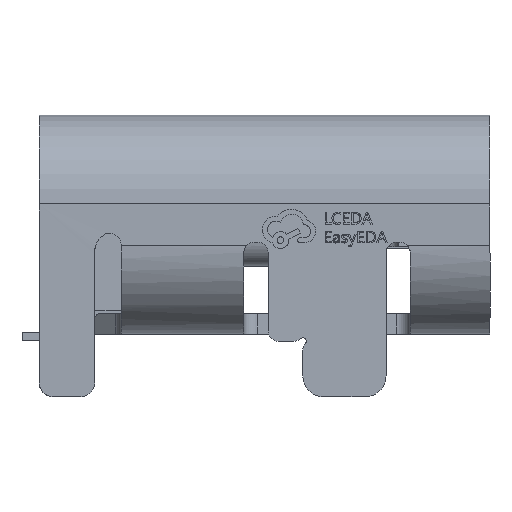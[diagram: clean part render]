
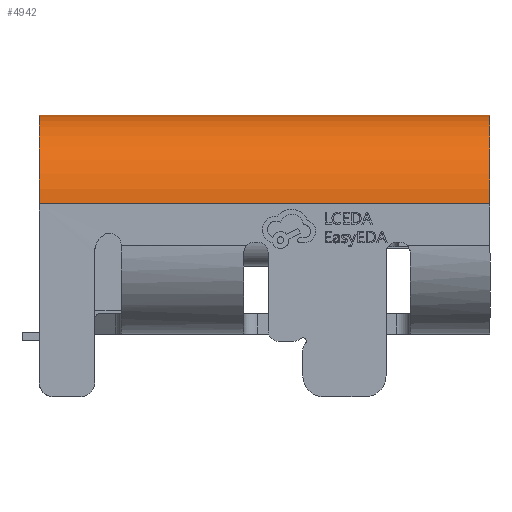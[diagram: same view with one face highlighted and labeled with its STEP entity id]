
A CAD part, left-side view. The second image highlights one B-rep face of the part: STEP entity #4942.
In plain terms, the highlighted cylindrical face has radius 1.28 mm (diameter 2.56 mm), a partial arc.
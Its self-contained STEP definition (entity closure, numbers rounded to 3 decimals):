
#1349 = ORIENTED_EDGE ( 'NONE', *, *, #21310, .T. ) ;
#2371 = DIRECTION ( 'NONE',  ( 0., 1., 0. ) ) ;
#4942 = ADVANCED_FACE ( 'NONE', ( #28675 ), #21417, .T. ) ;
#6455 = DIRECTION ( 'NONE',  ( 0., 0., 1. ) ) ;
#7211 = CARTESIAN_POINT ( 'NONE',  ( -4.47, -3.695, 0.713 ) ) ;
#9141 = DIRECTION ( 'NONE',  ( -1., 0., 0. ) ) ;
#9711 = CARTESIAN_POINT ( 'NONE',  ( -3.19, -3.695, 0.713 ) ) ;
#10146 = ORIENTED_EDGE ( 'NONE', *, *, #31077, .F. ) ;
#10737 = LINE ( 'NONE', #41276, #27868 ) ;
#11408 = AXIS2_PLACEMENT_3D ( 'NONE', #9711, #36488, #6455 ) ;
#11543 = DIRECTION ( 'NONE',  ( 1., 0., 0. ) ) ;
#12088 = EDGE_LOOP ( 'NONE', ( #1349, #10146, #28335, #20824 ) ) ;
#13552 = LINE ( 'NONE', #40397, #25682 ) ;
#15188 = CIRCLE ( 'NONE', #39771, 1.28 ) ;
#16803 = VERTEX_POINT ( 'NONE', #7211 ) ;
#16972 = CIRCLE ( 'NONE', #11408, 1.28 ) ;
#17223 = EDGE_CURVE ( 'NONE', #18652, #16803, #13552, .T. ) ;
#18178 = AXIS2_PLACEMENT_3D ( 'NONE', #28260, #34817, #11543 ) ;
#18652 = VERTEX_POINT ( 'NONE', #39096 ) ;
#18737 = CARTESIAN_POINT ( 'NONE',  ( -3.19, 2.805, 1.993 ) ) ;
#19737 = CARTESIAN_POINT ( 'NONE',  ( -3.19, -3.695, 1.993 ) ) ;
#20824 = ORIENTED_EDGE ( 'NONE', *, *, #35496, .F. ) ;
#21310 = EDGE_CURVE ( 'NONE', #40238, #42924, #10737, .T. ) ;
#21417 = CYLINDRICAL_SURFACE ( 'NONE', #18178, 1.28 ) ;
#25682 = VECTOR ( 'NONE', #29832, 1000. ) ;
#27868 = VECTOR ( 'NONE', #37095, 1000. ) ;
#28260 = CARTESIAN_POINT ( 'NONE',  ( -3.19, -2.195, 0.713 ) ) ;
#28335 = ORIENTED_EDGE ( 'NONE', *, *, #17223, .T. ) ;
#28675 = FACE_OUTER_BOUND ( 'NONE', #12088, .T. ) ;
#29512 = CARTESIAN_POINT ( 'NONE',  ( -3.19, 2.805, 0.713 ) ) ;
#29832 = DIRECTION ( 'NONE',  ( 0., -1., 0. ) ) ;
#31077 = EDGE_CURVE ( 'NONE', #18652, #42924, #15188, .T. ) ;
#34817 = DIRECTION ( 'NONE',  ( 0., -1., 0. ) ) ;
#35496 = EDGE_CURVE ( 'NONE', #40238, #16803, #16972, .T. ) ;
#36488 = DIRECTION ( 'NONE',  ( 0., -1., 0. ) ) ;
#37095 = DIRECTION ( 'NONE',  ( 0., 1., 0. ) ) ;
#39096 = CARTESIAN_POINT ( 'NONE',  ( -4.47, 2.805, 0.713 ) ) ;
#39771 = AXIS2_PLACEMENT_3D ( 'NONE', #29512, #2371, #9141 ) ;
#40238 = VERTEX_POINT ( 'NONE', #19737 ) ;
#40397 = CARTESIAN_POINT ( 'NONE',  ( -4.47, 2.805, 0.713 ) ) ;
#41276 = CARTESIAN_POINT ( 'NONE',  ( -3.19, -3.695, 1.993 ) ) ;
#42924 = VERTEX_POINT ( 'NONE', #18737 ) ;
